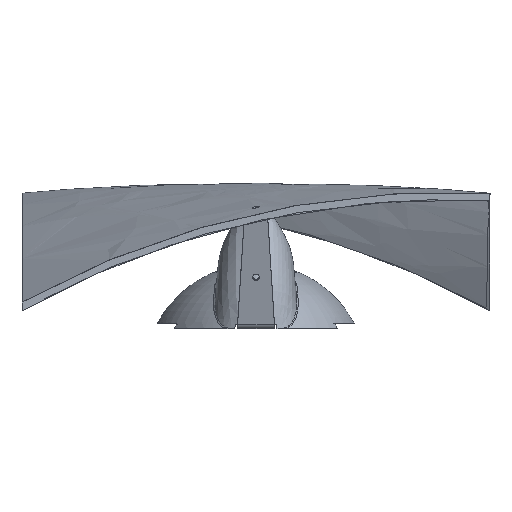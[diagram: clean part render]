
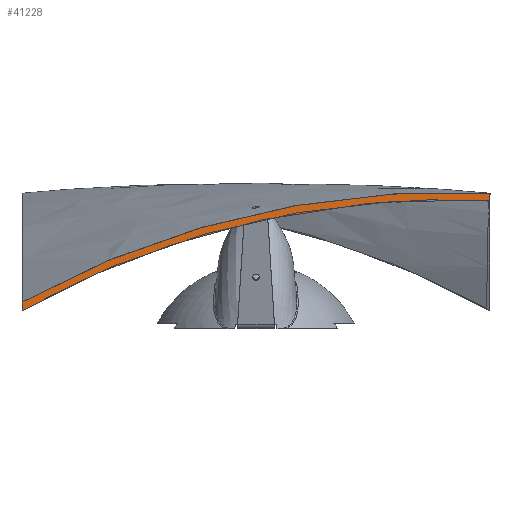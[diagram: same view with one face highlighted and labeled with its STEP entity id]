
A CAD part, left-side view. The second image highlights one B-rep face of the part: STEP entity #41228.
In plain terms, the highlighted planar face has unit normal (-1, 0, 0).
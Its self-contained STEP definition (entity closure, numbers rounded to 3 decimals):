
#1095 = CARTESIAN_POINT ( 'NONE',  ( -145.5, -46.116, 42.071 ) ) ;
#7947 = EDGE_CURVE ( 'NONE', #115072, #10655, #50153, .T. ) ;
#8517 = CARTESIAN_POINT ( 'NONE',  ( -145.5, 3.077, 34.804 ) ) ;
#9906 = CARTESIAN_POINT ( 'NONE',  ( -145.5, 27.17, 25.087 ) ) ;
#10508 = CARTESIAN_POINT ( 'NONE',  ( -145.5, 139.5, -15.304 ) ) ;
#10655 = VERTEX_POINT ( 'NONE', #50159 ) ;
#11176 = CARTESIAN_POINT ( 'NONE',  ( -145.5, 68.359, 16.748 ) ) ;
#11238 = CARTESIAN_POINT ( 'NONE',  ( -145.5, -5.178, 32.195 ) ) ;
#17224 = EDGE_LOOP ( 'NONE', ( #18023, #95875, #111198, #87297 ) ) ;
#18023 = ORIENTED_EDGE ( 'NONE', *, *, #7947, .T. ) ;
#18664 = CARTESIAN_POINT ( 'NONE',  ( -145.5, 139.5, -20.168 ) ) ;
#19267 = CARTESIAN_POINT ( 'NONE',  ( -145.5, 52.66, 22.082 ) ) ;
#19928 = CARTESIAN_POINT ( 'NONE',  ( -145.5, 19.289, 31.187 ) ) ;
#20652 = CARTESIAN_POINT ( 'NONE',  ( -145.5, 89.929, 4.02 ) ) ;
#21317 = CARTESIAN_POINT ( 'NONE',  ( -145.5, 138.291, -19.499 ) ) ;
#21595 = CARTESIAN_POINT ( 'NONE',  ( -145.5, 139.5, 72.696 ) ) ;
#29324 = DIRECTION ( 'NONE',  ( 0., 0., -1. ) ) ;
#29444 = CARTESIAN_POINT ( 'NONE',  ( -145.5, 11.022, 28.858 ) ) ;
#30109 = CARTESIAN_POINT ( 'NONE',  ( -145.5, 53.621, 17.288 ) ) ;
#30772 = CARTESIAN_POINT ( 'NONE',  ( -145.5, 131.016, -15.527 ) ) ;
#32087 = CARTESIAN_POINT ( 'NONE',  ( -145.5, -59.546, 39.212 ) ) ;
#34662 = DIRECTION ( 'NONE',  ( 0., 1., 0. ) ) ;
#34879 = EDGE_CURVE ( 'NONE', #51652, #10655, #98079, .T. ) ;
#40220 = CARTESIAN_POINT ( 'NONE',  ( -145.5, 74.469, 10.022 ) ) ;
#41228 = ADVANCED_FACE ( 'NONE', ( #128230 ), #127566, .F. ) ;
#41547 = CARTESIAN_POINT ( 'NONE',  ( -145.5, -86.955, 40.212 ) ) ;
#44884 = VERTEX_POINT ( 'NONE', #73221 ) ;
#49597 = CARTESIAN_POINT ( 'NONE',  ( -145.5, -114.5, 43.696 ) ) ;
#49660 = CARTESIAN_POINT ( 'NONE',  ( -145.5, -10.59, 33.171 ) ) ;
#50153 = B_SPLINE_CURVE_WITH_KNOTS ( 'NONE', 3,
 ( #18664, #21317, #50317, #91418, #30772, #62418, #71870, #92073, #122347, #20652, #40220, #133112, #83284, #30109, #124335, #9906, #80635, #29444, #61744, #70539, #11238, #49660, #73183, #52293, #32087, #60416, #41547, #102822, #103484, #93401, #82633 ),
 .UNSPECIFIED., .F., .F.,
 ( 4, 2, 1, 2, 2, 2, 2, 2, 2, 2, 2, 2, 2, 2, 2, 4 ),
 ( 0., 0.004, 0.008, 0.017, 0.033, 0.066, 0.083, 0.099, 0.132, 0.141, 0.149, 0.165, 0.199, 0.232, 0.248, 0.265 ),
 .UNSPECIFIED. ) ;
#50159 = CARTESIAN_POINT ( 'NONE',  ( -145.5, -114.5, 39.688 ) ) ;
#50317 = CARTESIAN_POINT ( 'NONE',  ( -145.5, 137.082, -18.829 ) ) ;
#51652 = VERTEX_POINT ( 'NONE', #107329 ) ;
#52235 = CARTESIAN_POINT ( 'NONE',  ( -145.5, -32.401, 40.593 ) ) ;
#52293 = CARTESIAN_POINT ( 'NONE',  ( -145.5, -37.727, 37.2 ) ) ;
#59570 = EDGE_CURVE ( 'NONE', #44884, #51652, #132303, .T. ) ;
#59636 = CARTESIAN_POINT ( 'NONE',  ( -145.5, -114.5, 72.696 ) ) ;
#60356 = CARTESIAN_POINT ( 'NONE',  ( -145.5, -84.533, 44.448 ) ) ;
#60416 = CARTESIAN_POINT ( 'NONE',  ( -145.5, -70.489, 39.839 ) ) ;
#61024 = CARTESIAN_POINT ( 'NONE',  ( -145.5, -13.25, 37.858 ) ) ;
#61744 = CARTESIAN_POINT ( 'NONE',  ( -145.5, 5.627, 30.026 ) ) ;
#62418 = CARTESIAN_POINT ( 'NONE',  ( -145.5, 127.351, -13.603 ) ) ;
#63352 = DIRECTION ( 'NONE',  ( 0., 0., -1. ) ) ;
#70477 = CARTESIAN_POINT ( 'NONE',  ( -145.5, 79.956, 12.356 ) ) ;
#70539 = CARTESIAN_POINT ( 'NONE',  ( -145.5, 2.928, 30.586 ) ) ;
#71870 = CARTESIAN_POINT ( 'NONE',  ( -145.5, 119.988, -9.818 ) ) ;
#72466 = CARTESIAN_POINT ( 'NONE',  ( -145.5, 111.715, -0.803 ) ) ;
#73183 = CARTESIAN_POINT ( 'NONE',  ( -145.5, -26.852, 35.816 ) ) ;
#73221 = CARTESIAN_POINT ( 'NONE',  ( -145.5, 139.5, -15.304 ) ) ;
#80635 = CARTESIAN_POINT ( 'NONE',  ( -145.5, 13.719, 28.249 ) ) ;
#81134 = AXIS2_PLACEMENT_3D ( 'NONE', #106046, #126904, #34662 ) ;
#82633 = CARTESIAN_POINT ( 'NONE',  ( -145.5, -114.5, 39.688 ) ) ;
#83284 = CARTESIAN_POINT ( 'NONE',  ( -145.5, 58.861, 15.564 ) ) ;
#85647 = VECTOR ( 'NONE', #63352, 1000. ) ;
#87297 = ORIENTED_EDGE ( 'NONE', *, *, #99176, .T. ) ;
#91418 = CARTESIAN_POINT ( 'NONE',  ( -145.5, 134.659, -17.502 ) ) ;
#92073 = CARTESIAN_POINT ( 'NONE',  ( -145.5, 115.04, -7.382 ) ) ;
#93401 = CARTESIAN_POINT ( 'NONE',  ( -145.5, -108.977, 39.945 ) ) ;
#94334 = LINE ( 'NONE', #21595, #85647 ) ;
#95875 = ORIENTED_EDGE ( 'NONE', *, *, #34879, .F. ) ;
#98079 = LINE ( 'NONE', #59636, #117554 ) ;
#99176 = EDGE_CURVE ( 'NONE', #44884, #115072, #94334, .T. ) ;
#101437 = CARTESIAN_POINT ( 'NONE',  ( -145.5, -62.582, 43.416 ) ) ;
#102822 = CARTESIAN_POINT ( 'NONE',  ( -145.5, -92.452, 40.242 ) ) ;
#103421 = CARTESIAN_POINT ( 'NONE',  ( -145.5, 129.982, -10.065 ) ) ;
#103484 = CARTESIAN_POINT ( 'NONE',  ( -145.5, -103.463, 40.109 ) ) ;
#104773 = CARTESIAN_POINT ( 'NONE',  ( -145.5, 139.5, -20.168 ) ) ;
#106046 = CARTESIAN_POINT ( 'NONE',  ( -145.5, -114.5, 72.696 ) ) ;
#107329 = CARTESIAN_POINT ( 'NONE',  ( -145.5, -114.5, 43.696 ) ) ;
#111198 = ORIENTED_EDGE ( 'NONE', *, *, #59570, .F. ) ;
#111536 = CARTESIAN_POINT ( 'NONE',  ( -145.5, 91.508, 7.866 ) ) ;
#112863 = CARTESIAN_POINT ( 'NONE',  ( -145.5, 32.716, 27.821 ) ) ;
#115072 = VERTEX_POINT ( 'NONE', #104773 ) ;
#117554 = VECTOR ( 'NONE', #29324, 1000. ) ;
#122347 = CARTESIAN_POINT ( 'NONE',  ( -145.5, 100.071, -0.333 ) ) ;
#124335 = CARTESIAN_POINT ( 'NONE',  ( -145.5, 37.818, 22.187 ) ) ;
#126904 = DIRECTION ( 'NONE',  ( 1., 0., 0. ) ) ;
#127566 = PLANE ( 'NONE',  #81134 ) ;
#128230 = FACE_OUTER_BOUND ( 'NONE', #17224, .T. ) ;
#132303 =( BOUNDED_CURVE ( )  B_SPLINE_CURVE ( 3, ( #10508, #103421, #72466, #111536, #70477, #11176, #19267, #112863, #19928, #8517, #61024, #52235, #1095, #101437, #60356, #133050, #49597 ),
 .UNSPECIFIED., .F., .T. ) 
 B_SPLINE_CURVE_WITH_KNOTS ( ( 4, 1, 1, 1, 1, 1, 1, 1, 1, 1, 1, 1, 1, 1, 4 ),
 ( 0., 0.033, 0.062, 0.066, 0.07, 0.099, 0.116, 0.132, 0.14, 0.165, 0.182, 0.198, 0.207, 0.231, 0.264 ),
 .UNSPECIFIED. ) 
 CURVE ( )  GEOMETRIC_REPRESENTATION_ITEM ( )  RATIONAL_B_SPLINE_CURVE ( ( 0.506, 0.506, 0.506, 0.506, 0.506, 0.506, 0.506, 0.506, 0.506, 0.506, 0.506, 0.506, 0.506, 0.506, 0.506, 0.506, 0.506 ) ) 
 REPRESENTATION_ITEM ( '' )  );
#133050 = CARTESIAN_POINT ( 'NONE',  ( -145.5, -103.647, 44.203 ) ) ;
#133112 = CARTESIAN_POINT ( 'NONE',  ( -145.5, 69.284, 11.931 ) ) ;
